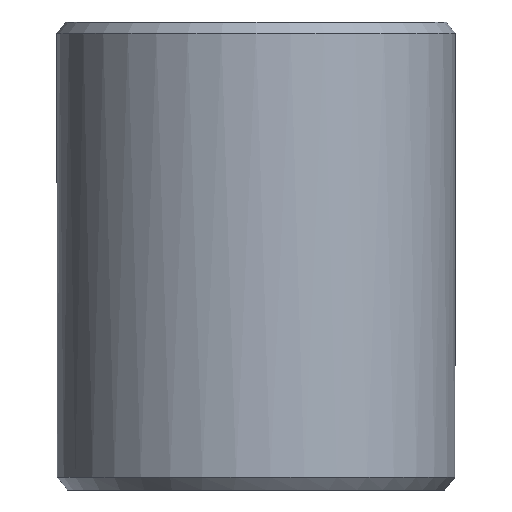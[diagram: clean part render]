
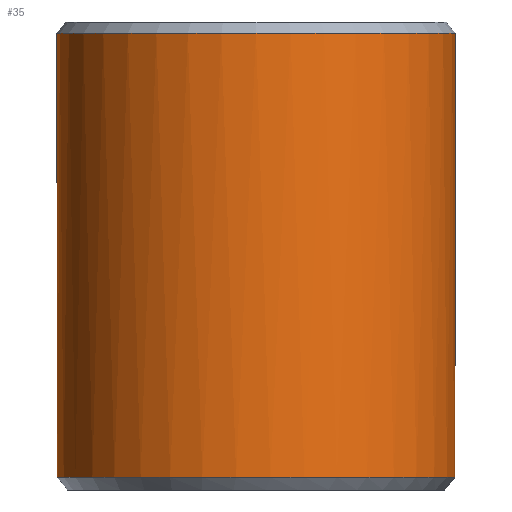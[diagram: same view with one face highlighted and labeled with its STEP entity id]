
A CAD part, left-side view. The second image highlights one B-rep face of the part: STEP entity #35.
In plain terms, the highlighted cylindrical face has radius 14 mm (diameter 28 mm), a full revolution.
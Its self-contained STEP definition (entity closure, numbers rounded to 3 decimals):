
#35 = ADVANCED_FACE('',(#36),#50,.T.);
#36 = FACE_BOUND('',#37,.T.);
#37 = EDGE_LOOP('',(#38,#71,#100,#126,#155,#178,#205,#206));
#38 = ORIENTED_EDGE('',*,*,#39,.F.);
#39 = EDGE_CURVE('',#40,#42,#44,.T.);
#40 = VERTEX_POINT('',#41);
#41 = CARTESIAN_POINT('',(-81.081,1.5,-8.1));
#42 = VERTEX_POINT('',#43);
#43 = CARTESIAN_POINT('',(-81.081,1.5,-0.2));
#44 = SURFACE_CURVE('',#45,(#49,#60),.PCURVE_S1.);
#45 = LINE('',#46,#47);
#46 = CARTESIAN_POINT('',(-81.081,1.5,-9.));
#47 = VECTOR('',#48,1.);
#48 = DIRECTION('',(0.,0.,1.));
#49 = PCURVE('',#50,#55);
#50 = CYLINDRICAL_SURFACE('',#51,14.);
#51 = AXIS2_PLACEMENT_3D('',#52,#53,#54);
#52 = CARTESIAN_POINT('',(-95.,0.,-9.));
#53 = DIRECTION('',(0.,0.,1.));
#54 = DIRECTION('',(1.,0.,-0.));
#55 = DEFINITIONAL_REPRESENTATION('',(#56),#59);
#56 = B_SPLINE_CURVE_WITH_KNOTS('',1,(#57,#58),.UNSPECIFIED.,.F.,.F.,(2,
    2),(0.9,9.7),.PIECEWISE_BEZIER_KNOTS.);
#57 = CARTESIAN_POINT('',(0.107,0.9));
#58 = CARTESIAN_POINT('',(0.107,9.7));
#59 = ( GEOMETRIC_REPRESENTATION_CONTEXT(2) 
PARAMETRIC_REPRESENTATION_CONTEXT() REPRESENTATION_CONTEXT('2D SPACE',''
  ) );
#60 = PCURVE('',#61,#66);
#61 = PLANE('',#62);
#62 = AXIS2_PLACEMENT_3D('',#63,#64,#65);
#63 = CARTESIAN_POINT('',(-91.,1.5,-9.2));
#64 = DIRECTION('',(-0.,1.,0.));
#65 = DIRECTION('',(0.,0.,1.));
#66 = DEFINITIONAL_REPRESENTATION('',(#67),#70);
#67 = B_SPLINE_CURVE_WITH_KNOTS('',1,(#68,#69),.UNSPECIFIED.,.F.,.F.,(2,
    2),(0.9,9.7),.PIECEWISE_BEZIER_KNOTS.);
#68 = CARTESIAN_POINT('',(1.1,9.919));
#69 = CARTESIAN_POINT('',(9.9,9.919));
#70 = ( GEOMETRIC_REPRESENTATION_CONTEXT(2) 
PARAMETRIC_REPRESENTATION_CONTEXT() REPRESENTATION_CONTEXT('2D SPACE',''
  ) );
#71 = ORIENTED_EDGE('',*,*,#72,.T.);
#72 = EDGE_CURVE('',#40,#73,#75,.T.);
#73 = VERTEX_POINT('',#74);
#74 = CARTESIAN_POINT('',(-83.876,-8.5,-8.1));
#75 = SURFACE_CURVE('',#76,(#81,#88),.PCURVE_S1.);
#76 = CIRCLE('',#77,14.);
#77 = AXIS2_PLACEMENT_3D('',#78,#79,#80);
#78 = CARTESIAN_POINT('',(-95.,0.,-8.1));
#79 = DIRECTION('',(0.,0.,1.));
#80 = DIRECTION('',(1.,0.,-0.));
#81 = PCURVE('',#50,#82);
#82 = DEFINITIONAL_REPRESENTATION('',(#83),#87);
#83 = LINE('',#84,#85);
#84 = CARTESIAN_POINT('',(0.,0.9));
#85 = VECTOR('',#86,1.);
#86 = DIRECTION('',(1.,0.));
#87 = ( GEOMETRIC_REPRESENTATION_CONTEXT(2) 
PARAMETRIC_REPRESENTATION_CONTEXT() REPRESENTATION_CONTEXT('2D SPACE',''
  ) );
#88 = PCURVE('',#89,#94);
#89 = CONICAL_SURFACE('',#90,13.2,0.675);
#90 = AXIS2_PLACEMENT_3D('',#91,#92,#93);
#91 = CARTESIAN_POINT('',(-95.,0.,-9.1));
#92 = DIRECTION('',(0.,0.,1.));
#93 = DIRECTION('',(1.,0.,-0.));
#94 = DEFINITIONAL_REPRESENTATION('',(#95),#99);
#95 = LINE('',#96,#97);
#96 = CARTESIAN_POINT('',(0.,1.));
#97 = VECTOR('',#98,1.);
#98 = DIRECTION('',(1.,0.));
#99 = ( GEOMETRIC_REPRESENTATION_CONTEXT(2) 
PARAMETRIC_REPRESENTATION_CONTEXT() REPRESENTATION_CONTEXT('2D SPACE',''
  ) );
#100 = ORIENTED_EDGE('',*,*,#101,.T.);
#101 = EDGE_CURVE('',#73,#102,#104,.T.);
#102 = VERTEX_POINT('',#103);
#103 = CARTESIAN_POINT('',(-83.876,-8.5,-0.2));
#104 = SURFACE_CURVE('',#105,(#109,#115),.PCURVE_S1.);
#105 = LINE('',#106,#107);
#106 = CARTESIAN_POINT('',(-83.876,-8.5,-9.));
#107 = VECTOR('',#108,1.);
#108 = DIRECTION('',(0.,0.,1.));
#109 = PCURVE('',#50,#110);
#110 = DEFINITIONAL_REPRESENTATION('',(#111),#114);
#111 = B_SPLINE_CURVE_WITH_KNOTS('',1,(#112,#113),.UNSPECIFIED.,.F.,.F.,
  (2,2),(0.9,9.7),.PIECEWISE_BEZIER_KNOTS.);
#112 = CARTESIAN_POINT('',(5.631,0.9));
#113 = CARTESIAN_POINT('',(5.631,9.7));
#114 = ( GEOMETRIC_REPRESENTATION_CONTEXT(2) 
PARAMETRIC_REPRESENTATION_CONTEXT() REPRESENTATION_CONTEXT('2D SPACE',''
  ) );
#115 = PCURVE('',#116,#121);
#116 = PLANE('',#117);
#117 = AXIS2_PLACEMENT_3D('',#118,#119,#120);
#118 = CARTESIAN_POINT('',(-91.,-8.5,-9.2));
#119 = DIRECTION('',(-0.,1.,0.));
#120 = DIRECTION('',(0.,0.,1.));
#121 = DEFINITIONAL_REPRESENTATION('',(#122),#125);
#122 = B_SPLINE_CURVE_WITH_KNOTS('',1,(#123,#124),.UNSPECIFIED.,.F.,.F.,
  (2,2),(0.9,9.7),.PIECEWISE_BEZIER_KNOTS.);
#123 = CARTESIAN_POINT('',(1.1,7.124));
#124 = CARTESIAN_POINT('',(9.9,7.124));
#125 = ( GEOMETRIC_REPRESENTATION_CONTEXT(2) 
PARAMETRIC_REPRESENTATION_CONTEXT() REPRESENTATION_CONTEXT('2D SPACE',''
  ) );
#126 = ORIENTED_EDGE('',*,*,#127,.T.);
#127 = EDGE_CURVE('',#102,#128,#130,.T.);
#128 = VERTEX_POINT('',#129);
#129 = CARTESIAN_POINT('',(-81.,0.,-0.2));
#130 = SURFACE_CURVE('',#131,(#136,#143),.PCURVE_S1.);
#131 = CIRCLE('',#132,14.);
#132 = AXIS2_PLACEMENT_3D('',#133,#134,#135);
#133 = CARTESIAN_POINT('',(-95.,0.,-0.2));
#134 = DIRECTION('',(0.,0.,1.));
#135 = DIRECTION('',(1.,0.,-0.));
#136 = PCURVE('',#50,#137);
#137 = DEFINITIONAL_REPRESENTATION('',(#138),#142);
#138 = LINE('',#139,#140);
#139 = CARTESIAN_POINT('',(0.,8.8));
#140 = VECTOR('',#141,1.);
#141 = DIRECTION('',(1.,0.));
#142 = ( GEOMETRIC_REPRESENTATION_CONTEXT(2) 
PARAMETRIC_REPRESENTATION_CONTEXT() REPRESENTATION_CONTEXT('2D SPACE',''
  ) );
#143 = PCURVE('',#144,#149);
#144 = PLANE('',#145);
#145 = AXIS2_PLACEMENT_3D('',#146,#147,#148);
#146 = CARTESIAN_POINT('',(-91.,-8.5,-0.2));
#147 = DIRECTION('',(0.,0.,1.));
#148 = DIRECTION('',(1.,0.,-0.));
#149 = DEFINITIONAL_REPRESENTATION('',(#150),#154);
#150 = CIRCLE('',#151,14.);
#151 = AXIS2_PLACEMENT_2D('',#152,#153);
#152 = CARTESIAN_POINT('',(-4.,8.5));
#153 = DIRECTION('',(1.,0.));
#154 = ( GEOMETRIC_REPRESENTATION_CONTEXT(2) 
PARAMETRIC_REPRESENTATION_CONTEXT() REPRESENTATION_CONTEXT('2D SPACE',''
  ) );
#155 = ORIENTED_EDGE('',*,*,#156,.T.);
#156 = EDGE_CURVE('',#128,#157,#159,.T.);
#157 = VERTEX_POINT('',#158);
#158 = CARTESIAN_POINT('',(-81.,0.,23.1));
#159 = SEAM_CURVE('',#160,(#164,#171),.PCURVE_S1.);
#160 = LINE('',#161,#162);
#161 = CARTESIAN_POINT('',(-81.,0.,-9.));
#162 = VECTOR('',#163,1.);
#163 = DIRECTION('',(0.,0.,1.));
#164 = PCURVE('',#50,#165);
#165 = DEFINITIONAL_REPRESENTATION('',(#166),#170);
#166 = LINE('',#167,#168);
#167 = CARTESIAN_POINT('',(0.,-0.));
#168 = VECTOR('',#169,1.);
#169 = DIRECTION('',(0.,1.));
#170 = ( GEOMETRIC_REPRESENTATION_CONTEXT(2) 
PARAMETRIC_REPRESENTATION_CONTEXT() REPRESENTATION_CONTEXT('2D SPACE',''
  ) );
#171 = PCURVE('',#50,#172);
#172 = DEFINITIONAL_REPRESENTATION('',(#173),#177);
#173 = LINE('',#174,#175);
#174 = CARTESIAN_POINT('',(6.283,-0.));
#175 = VECTOR('',#176,1.);
#176 = DIRECTION('',(0.,1.));
#177 = ( GEOMETRIC_REPRESENTATION_CONTEXT(2) 
PARAMETRIC_REPRESENTATION_CONTEXT() REPRESENTATION_CONTEXT('2D SPACE',''
  ) );
#178 = ORIENTED_EDGE('',*,*,#179,.F.);
#179 = EDGE_CURVE('',#157,#157,#180,.T.);
#180 = SURFACE_CURVE('',#181,(#186,#193),.PCURVE_S1.);
#181 = CIRCLE('',#182,14.);
#182 = AXIS2_PLACEMENT_3D('',#183,#184,#185);
#183 = CARTESIAN_POINT('',(-95.,0.,23.1));
#184 = DIRECTION('',(0.,0.,1.));
#185 = DIRECTION('',(1.,0.,-0.));
#186 = PCURVE('',#50,#187);
#187 = DEFINITIONAL_REPRESENTATION('',(#188),#192);
#188 = LINE('',#189,#190);
#189 = CARTESIAN_POINT('',(0.,32.1));
#190 = VECTOR('',#191,1.);
#191 = DIRECTION('',(1.,0.));
#192 = ( GEOMETRIC_REPRESENTATION_CONTEXT(2) 
PARAMETRIC_REPRESENTATION_CONTEXT() REPRESENTATION_CONTEXT('2D SPACE',''
  ) );
#193 = PCURVE('',#194,#199);
#194 = CONICAL_SURFACE('',#195,14.,0.675);
#195 = AXIS2_PLACEMENT_3D('',#196,#197,#198);
#196 = CARTESIAN_POINT('',(-95.,0.,23.1));
#197 = DIRECTION('',(-0.,-0.,-1.));
#198 = DIRECTION('',(1.,0.,-0.));
#199 = DEFINITIONAL_REPRESENTATION('',(#200),#204);
#200 = LINE('',#201,#202);
#201 = CARTESIAN_POINT('',(-0.,-0.));
#202 = VECTOR('',#203,1.);
#203 = DIRECTION('',(-1.,-0.));
#204 = ( GEOMETRIC_REPRESENTATION_CONTEXT(2) 
PARAMETRIC_REPRESENTATION_CONTEXT() REPRESENTATION_CONTEXT('2D SPACE',''
  ) );
#205 = ORIENTED_EDGE('',*,*,#156,.F.);
#206 = ORIENTED_EDGE('',*,*,#207,.T.);
#207 = EDGE_CURVE('',#128,#42,#208,.T.);
#208 = SURFACE_CURVE('',#209,(#214,#221),.PCURVE_S1.);
#209 = CIRCLE('',#210,14.);
#210 = AXIS2_PLACEMENT_3D('',#211,#212,#213);
#211 = CARTESIAN_POINT('',(-95.,0.,-0.2));
#212 = DIRECTION('',(0.,0.,1.));
#213 = DIRECTION('',(1.,0.,-0.));
#214 = PCURVE('',#50,#215);
#215 = DEFINITIONAL_REPRESENTATION('',(#216),#220);
#216 = LINE('',#217,#218);
#217 = CARTESIAN_POINT('',(0.,8.8));
#218 = VECTOR('',#219,1.);
#219 = DIRECTION('',(1.,0.));
#220 = ( GEOMETRIC_REPRESENTATION_CONTEXT(2) 
PARAMETRIC_REPRESENTATION_CONTEXT() REPRESENTATION_CONTEXT('2D SPACE',''
  ) );
#221 = PCURVE('',#144,#222);
#222 = DEFINITIONAL_REPRESENTATION('',(#223),#227);
#223 = CIRCLE('',#224,14.);
#224 = AXIS2_PLACEMENT_2D('',#225,#226);
#225 = CARTESIAN_POINT('',(-4.,8.5));
#226 = DIRECTION('',(1.,0.));
#227 = ( GEOMETRIC_REPRESENTATION_CONTEXT(2) 
PARAMETRIC_REPRESENTATION_CONTEXT() REPRESENTATION_CONTEXT('2D SPACE',''
  ) );
